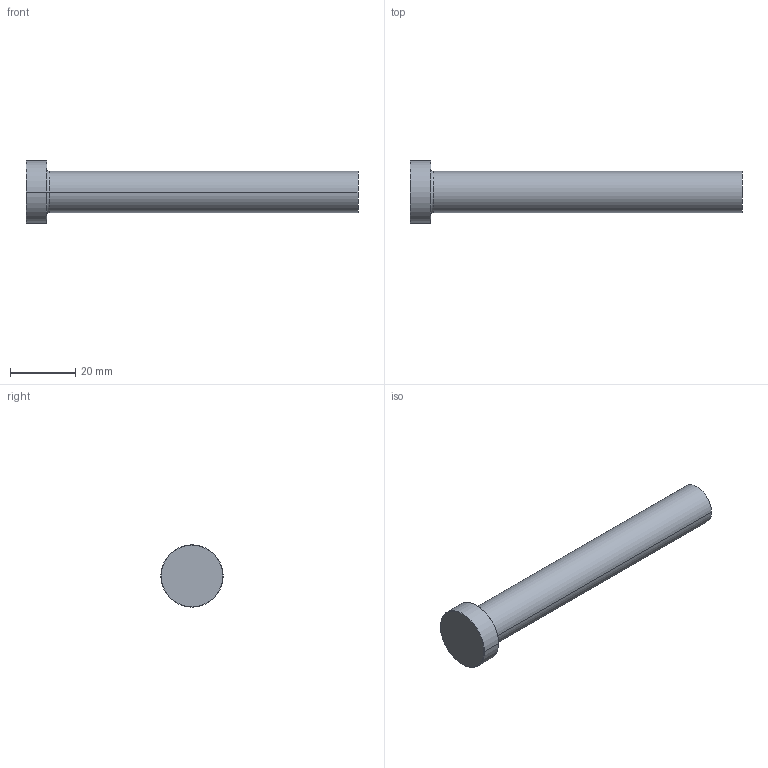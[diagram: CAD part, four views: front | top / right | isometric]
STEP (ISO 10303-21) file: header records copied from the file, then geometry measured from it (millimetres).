
FILE_DESCRIPTION (( 'STEP AP214' ), '1' );
FILE_NAME ('P33-4.STEP', '2020-03-12T10:54:57', ( '' ), ( '' ), 'SwSTEP 2.0', 'SolidWorks 2018', '' );
FILE_SCHEMA (( 'AUTOMOTIVE_DESIGN' ));
Length unit declared in the file: inch
Products named in the file (1): P33-4
Bounding box: 101.6 x 19.05 x 19.05 mm (x, y, z)
Volume: 13865.9 mm3; surface area: 4728.2 mm2
Topology: 1 solids, 1 shells, 13 faces, 24 edges, 14 vertices
Faces by surface type: cone 4, cylinder 4, plane 3, torus 2
Entity records: 366 total; most frequent: DIRECTION 68, CARTESIAN_POINT 52, ORIENTED_EDGE 48, AXIS2_PLACEMENT_3D 30, EDGE_CURVE 24, CIRCLE 16, VERTEX_POINT 14, EDGE_LOOP 14
